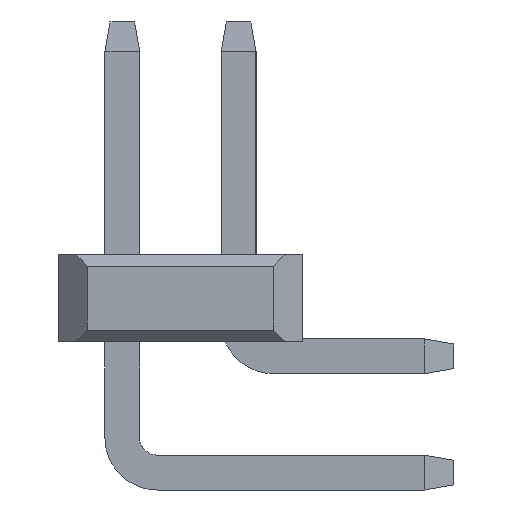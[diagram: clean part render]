
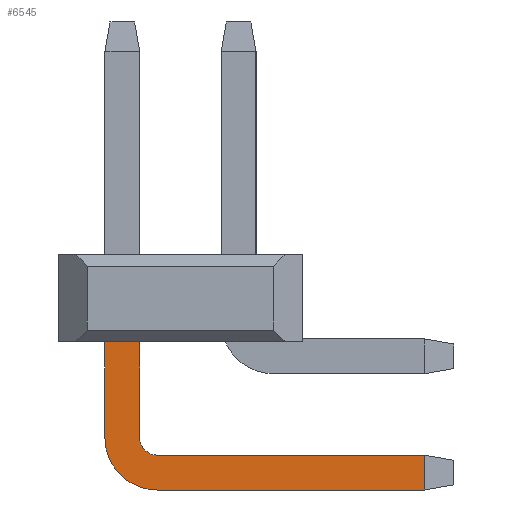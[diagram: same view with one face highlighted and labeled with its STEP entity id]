
A CAD part, left-side view. The second image highlights one B-rep face of the part: STEP entity #6545.
In plain terms, the highlighted planar face has unit normal (-1, 0, 0).
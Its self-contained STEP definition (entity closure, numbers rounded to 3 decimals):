
#6 = EDGE_CURVE ( 'NONE', #7, #9, #6627, .T. ) ;
#7 = VERTEX_POINT ( 'NONE', #6618 ) ;
#9 = VERTEX_POINT ( 'NONE', #6617 ) ;
#64 = CARTESIAN_POINT ( 'NONE',  ( -8.3, 2.5, -0.3 ) ) ;
#65 = DIRECTION ( 'NONE',  ( 0., 1., 0. ) ) ;
#66 = VECTOR ( 'NONE', #65, 1000. ) ;
#67 = CARTESIAN_POINT ( 'NONE',  ( -8.3, -2.6, -0.3 ) ) ;
#68 = LINE ( 'NONE', #67, #66 ) ;
#69 = CARTESIAN_POINT ( 'NONE',  ( -8.3, -2.1, -0.3 ) ) ;
#2433 = ORIENTED_EDGE ( 'NONE', *, *, #6585, .F. ) ;
#2947 = VERTEX_POINT ( 'NONE', #69 ) ;
#2949 = EDGE_CURVE ( 'NONE', #2947, #2950, #68, .T. ) ;
#2950 = VERTEX_POINT ( 'NONE', #64 ) ;
#3092 = DIRECTION ( 'NONE',  ( 0., 0., 1. ) ) ;
#3093 = VECTOR ( 'NONE', #3092, 1000. ) ;
#3094 = CARTESIAN_POINT ( 'NONE',  ( -8.3, 3.4, 0.6 ) ) ;
#3095 = LINE ( 'NONE', #3094, #3093 ) ;
#3175 = FACE_OUTER_BOUND ( 'NONE', #6546, .T. ) ;
#3181 = DIRECTION ( 'NONE',  ( 0., 0., -1. ) ) ;
#3182 = VECTOR ( 'NONE', #3181, 1000. ) ;
#3183 = CARTESIAN_POINT ( 'NONE',  ( -8.3, 2.8, 0.6 ) ) ;
#3184 = LINE ( 'NONE', #3183, #3182 ) ;
#3206 = DIRECTION ( 'NONE',  ( 0., 0., 1. ) ) ;
#3207 = VECTOR ( 'NONE', #3206, 1000. ) ;
#3208 = CARTESIAN_POINT ( 'NONE',  ( -8.3, -2.1, 0.6 ) ) ;
#3209 = LINE ( 'NONE', #3208, #3207 ) ;
#3216 = DIRECTION ( 'NONE',  ( 0., 0., -1. ) ) ;
#3217 = DIRECTION ( 'NONE',  ( 1., 0., 0. ) ) ;
#3218 = CARTESIAN_POINT ( 'NONE',  ( -8.3, 2.5, 0.6 ) ) ;
#3219 = AXIS2_PLACEMENT_3D ( 'NONE', #3218, #3217, #3216 ) ;
#3220 = PLANE ( 'NONE',  #3219 ) ;
#3236 = CARTESIAN_POINT ( 'NONE',  ( -8.3, 2.8, 0.6 ) ) ;
#3237 = DIRECTION ( 'NONE',  ( 0., 0., -1. ) ) ;
#3238 = DIRECTION ( 'NONE',  ( -1., 0., 0. ) ) ;
#3239 = CARTESIAN_POINT ( 'NONE',  ( -8.3, 2.5, 0.6 ) ) ;
#3240 = AXIS2_PLACEMENT_3D ( 'NONE', #3239, #3238, #3237 ) ;
#3245 = CIRCLE ( 'NONE', #3240, 0.3 ) ;
#3250 = CARTESIAN_POINT ( 'NONE',  ( -8.3, 3.4, 0.6 ) ) ;
#3251 = DIRECTION ( 'NONE',  ( 0., 0., -1. ) ) ;
#3252 = DIRECTION ( 'NONE',  ( 1., 0., 0. ) ) ;
#3253 = CARTESIAN_POINT ( 'NONE',  ( -8.3, 2.5, 0.6 ) ) ;
#3254 = AXIS2_PLACEMENT_3D ( 'NONE', #3253, #3252, #3251 ) ;
#3259 = CIRCLE ( 'NONE', #3254, 0.9 ) ;
#3326 = CARTESIAN_POINT ( 'NONE',  ( -8.3, -2.1, 0.3 ) ) ;
#3327 = CARTESIAN_POINT ( 'NONE',  ( -8.3, 2.5, 0.3 ) ) ;
#3328 = DIRECTION ( 'NONE',  ( 0., -1., 0. ) ) ;
#3329 = VECTOR ( 'NONE', #3328, 1000. ) ;
#3330 = CARTESIAN_POINT ( 'NONE',  ( -8.3, -2.6, 0.3 ) ) ;
#3331 = LINE ( 'NONE', #3330, #3329 ) ;
#6514 = ORIENTED_EDGE ( 'NONE', *, *, #6560, .F. ) ;
#6515 = ORIENTED_EDGE ( 'NONE', *, *, #6541, .F. ) ;
#6516 = ORIENTED_EDGE ( 'NONE', *, *, #6, .F. ) ;
#6517 = ORIENTED_EDGE ( 'NONE', *, *, #6518, .F. ) ;
#6518 = EDGE_CURVE ( 'NONE', #6575, #7, #3095, .T. ) ;
#6519 = ORIENTED_EDGE ( 'NONE', *, *, #6574, .F. ) ;
#6541 = EDGE_CURVE ( 'NONE', #9, #6561, #3184, .T. ) ;
#6545 = ADVANCED_FACE ( 'NONE', ( #3175 ), #3220, .F. ) ;
#6546 = EDGE_LOOP ( 'NONE', ( #6547, #6550, #2433, #6514, #6515, #6516, #6517, #6519 ) ) ;
#6547 = ORIENTED_EDGE ( 'NONE', *, *, #2949, .F. ) ;
#6550 = ORIENTED_EDGE ( 'NONE', *, *, #6551, .T. ) ;
#6551 = EDGE_CURVE ( 'NONE', #2947, #6587, #3209, .T. ) ;
#6560 = EDGE_CURVE ( 'NONE', #6561, #6586, #3245, .T. ) ;
#6561 = VERTEX_POINT ( 'NONE', #3236 ) ;
#6574 = EDGE_CURVE ( 'NONE', #2950, #6575, #3259, .T. ) ;
#6575 = VERTEX_POINT ( 'NONE', #3250 ) ;
#6585 = EDGE_CURVE ( 'NONE', #6586, #6587, #3331, .T. ) ;
#6586 = VERTEX_POINT ( 'NONE', #3327 ) ;
#6587 = VERTEX_POINT ( 'NONE', #3326 ) ;
#6617 = CARTESIAN_POINT ( 'NONE',  ( -8.3, 2.8, 2.25 ) ) ;
#6618 = CARTESIAN_POINT ( 'NONE',  ( -8.3, 3.4, 2.25 ) ) ;
#6619 = DIRECTION ( 'NONE',  ( 0., -1., 0. ) ) ;
#6620 = VECTOR ( 'NONE', #6619, 1000. ) ;
#6621 = CARTESIAN_POINT ( 'NONE',  ( -8.3, 4.2, 2.25 ) ) ;
#6627 = LINE ( 'NONE', #6621, #6620 ) ;
